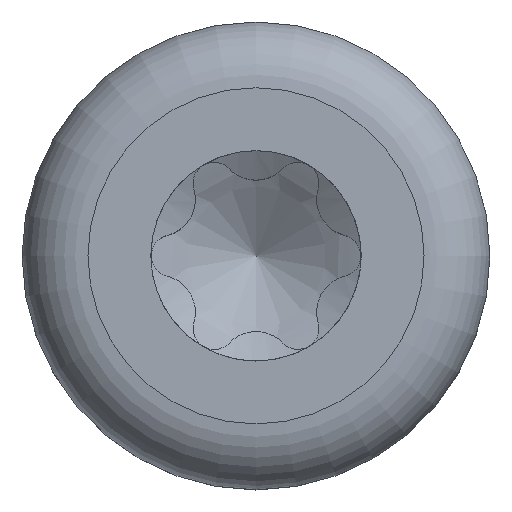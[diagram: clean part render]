
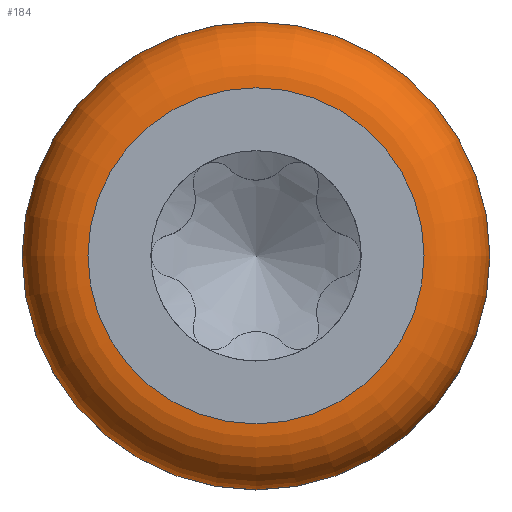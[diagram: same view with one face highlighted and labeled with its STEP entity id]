
A CAD part, top view. The second image highlights one B-rep face of the part: STEP entity #184.
In plain terms, the highlighted toroidal (fillet/blend) face has major radius 4.49 mm and minor radius 1.76 mm.
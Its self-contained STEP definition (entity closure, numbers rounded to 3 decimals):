
#147=TOROIDAL_SURFACE('',#929,4.49,1.76);
#158=FACE_BOUND('',#307,.T.);
#159=FACE_BOUND('',#308,.T.);
#184=ADVANCED_FACE('',(#158,#159),#147,.T.);
#307=EDGE_LOOP('',(#420));
#308=EDGE_LOOP('',(#421));
#371=CIRCLE('',#926,6.25);
#372=CIRCLE('',#928,4.49);
#420=ORIENTED_EDGE('',*,*,#749,.F.);
#421=ORIENTED_EDGE('',*,*,#748,.T.);
#662=VERTEX_POINT('',#2258);
#663=VERTEX_POINT('',#2261);
#748=EDGE_CURVE('',#662,#662,#371,.T.);
#749=EDGE_CURVE('',#663,#663,#372,.T.);
#926=AXIS2_PLACEMENT_3D('',#2257,#984,#985);
#928=AXIS2_PLACEMENT_3D('',#2260,#988,#989);
#929=AXIS2_PLACEMENT_3D('',#2262,#990,#991);
#984=DIRECTION('',(0.,0.,1.));
#985=DIRECTION('',(1.,0.,0.));
#988=DIRECTION('',(0.,0.,1.));
#989=DIRECTION('',(1.,0.,0.));
#990=DIRECTION('',(0.,0.,1.));
#991=DIRECTION('',(1.,0.,0.));
#2257=CARTESIAN_POINT('',(0.,0.,2.64));
#2258=CARTESIAN_POINT('',(6.25,0.,2.64));
#2260=CARTESIAN_POINT('',(0.,0.,4.4));
#2261=CARTESIAN_POINT('',(4.49,0.,4.4));
#2262=CARTESIAN_POINT('',(0.,0.,2.64));
